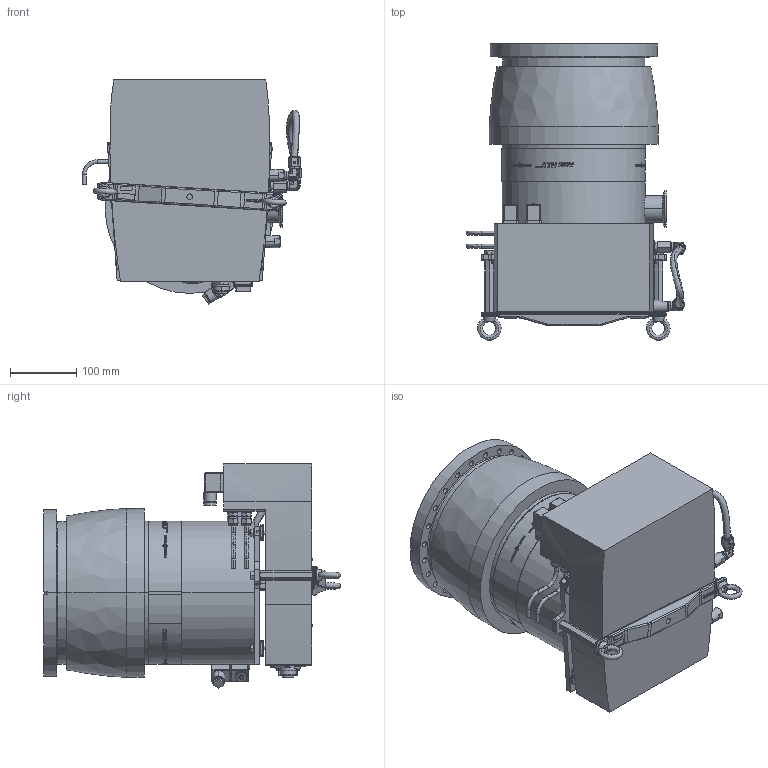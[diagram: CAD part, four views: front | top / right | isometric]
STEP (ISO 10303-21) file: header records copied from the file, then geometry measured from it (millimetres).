
FILE_DESCRIPTION((''),'2;1');
FILE_NAME('ENV-ATH1603M-GEN','2017-06-30T',('RCRIADO'),(''),'PRO/ENGINEER BY PARAMETRIC TECHNOLOGY CORPORATION, 2015280','PRO/ENGINEER BY PARAMETRIC TECHNOLOGY CORPORATION, 2015280','');
FILE_SCHEMA(('CONFIG_CONTROL_DESIGN'));
Products named in the file (1): ENV-ATH1603M-GEN
Bounding box: 332.93 x 449.45 x 339.58 mm (x, y, z)
Volume: 20072535.9 mm3; surface area: 846878.8 mm2
Topology: 1 solids, 12 shells, 5301 faces, 14031 edges, 9058 vertices
Faces by surface type: bspline 1706, plane 1695, cylinder 1223, cone 509, torus 118, sphere 40, extrusion 10
Entity records: 207021 total; most frequent: CARTESIAN_POINT 87175, ORIENTED_EDGE 27998, DIRECTION 19652, EDGE_CURVE 13999, VERTEX_POINT 9058, AXIS2_PLACEMENT_3D 6759, VECTOR 6134, LINE 6124
